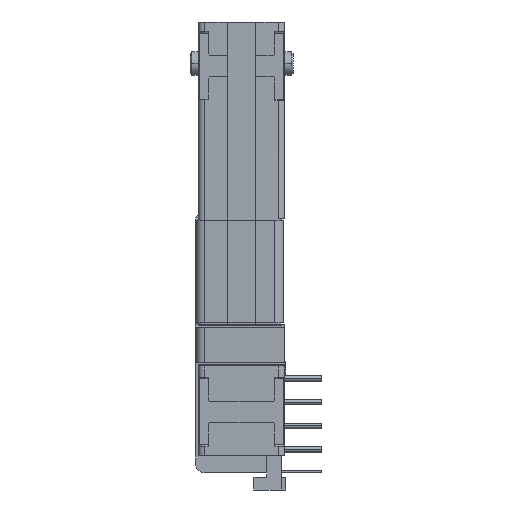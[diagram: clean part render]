
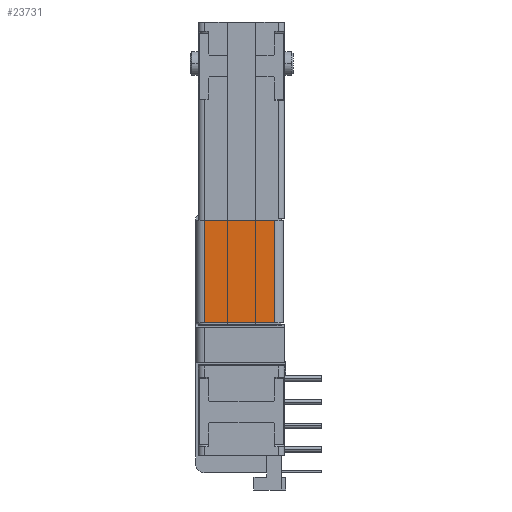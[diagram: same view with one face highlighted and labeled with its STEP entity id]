
A CAD part, left-side view. The second image highlights one B-rep face of the part: STEP entity #23731.
In plain terms, the highlighted planar face has unit normal (-1, 0, 0).
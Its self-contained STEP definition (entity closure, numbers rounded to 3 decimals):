
#1362=DIRECTION('',(0.,1.,0.));
#1363=VECTOR('',#1362,5.664);
#1364=CARTESIAN_POINT('',(-31.204,-2.68,-16.002));
#1365=LINE('',#1364,#1363);
#6839=DIRECTION('',(0.,0.,1.));
#6840=VECTOR('',#6839,8.255);
#6841=CARTESIAN_POINT('',(-31.204,2.985,-24.257));
#6842=LINE('',#6841,#6840);
#6843=DIRECTION('',(0.,0.,-1.));
#6844=VECTOR('',#6843,8.255);
#6845=CARTESIAN_POINT('',(-31.204,-2.68,-16.002));
#6846=LINE('',#6845,#6844);
#6847=DIRECTION('',(0.,1.,0.));
#6848=VECTOR('',#6847,5.664);
#6849=CARTESIAN_POINT('',(-31.204,-2.68,-24.257));
#6850=LINE('',#6849,#6848);
#14639=CARTESIAN_POINT('',(-31.204,2.985,-16.002));
#14641=VERTEX_POINT('',#14639);
#14642=CARTESIAN_POINT('',(-31.204,2.985,-24.257));
#14643=VERTEX_POINT('',#14642);
#14647=CARTESIAN_POINT('',(-31.204,-2.68,-24.257));
#14649=VERTEX_POINT('',#14647);
#14650=CARTESIAN_POINT('',(-31.204,-2.68,-16.002));
#14651=VERTEX_POINT('',#14650);
#23719=CARTESIAN_POINT('',(-31.204,3.493,-24.257));
#23720=DIRECTION('',(-1.,0.,0.));
#23721=DIRECTION('',(0.,0.,1.));
#23722=AXIS2_PLACEMENT_3D('',#23719,#23720,#23721);
#23723=PLANE('',#23722);
#23724=ORIENTED_EDGE('',*,*,#23712,.T.);
#23725=ORIENTED_EDGE('',*,*,#17421,.F.);
#23727=ORIENTED_EDGE('',*,*,#23726,.T.);
#23728=ORIENTED_EDGE('',*,*,#23685,.T.);
#23729=EDGE_LOOP('',(#23724,#23725,#23727,#23728));
#23730=FACE_OUTER_BOUND('',#23729,.F.);
#17421=EDGE_CURVE('',#14651,#14641,#1365,.T.);
#23685=EDGE_CURVE('',#14649,#14643,#6850,.T.);
#23712=EDGE_CURVE('',#14643,#14641,#6842,.T.);
#23726=EDGE_CURVE('',#14651,#14649,#6846,.T.);
#23731=ADVANCED_FACE('',(#23730),#23723,.T.);
